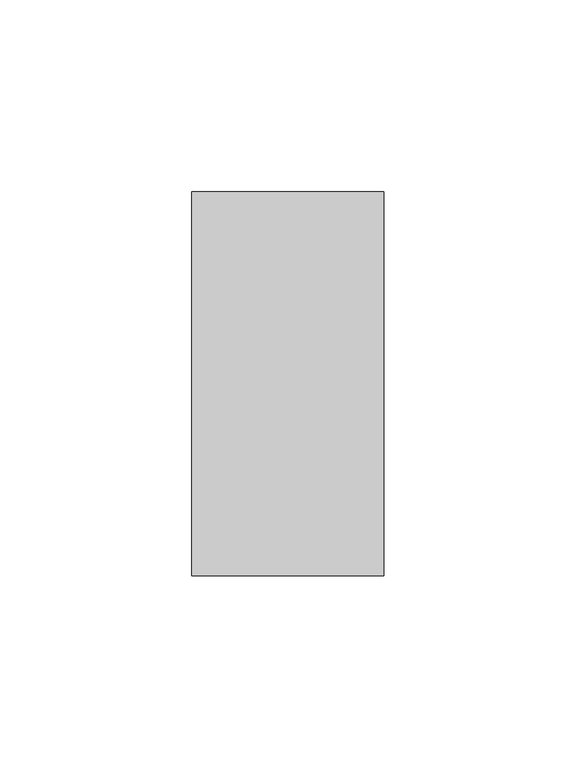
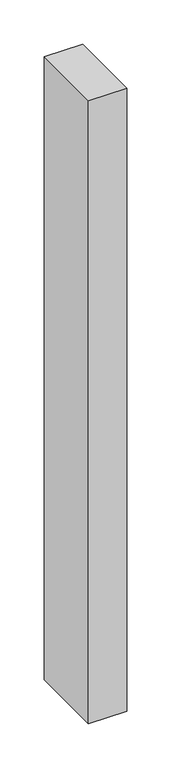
"""IFC4 building model written with IfcOpenShell, lengths in millimetres: member geometry, Прямоугольный импост : 50х100."""

from ifc_helpers import new_model, si_unit, frame, origin, place, context, project, spatial, polyline, outline, extrude, source, transform, mapped, element, save


def member_60ea8178(model_context):
    return source(origin(), model_context, "Body", "SweptSolid", [
        extrude(outline(polyline([(25.0, 50.0), (25.0, -50.0), (-25.0, -50.0), (-25.0, 50.0), (25.0, 50.0)])), frame((0.0, 0.0, -860.0), z_axis=(0.0, 0.0, 1.0), x_axis=(1.0, 0.0, 0.0)), (0.0, 0.0, 1.0), 860.0),
    ])


if __name__ == "__main__":
    model = new_model("IFC4")
    model_context = context("Model", 3, world=origin())
    ifc_project = project(units=[si_unit("LENGTHUNIT", "METRE", prefix="MILLI")], contexts=[model_context])
    site = spatial("IfcSite", under=ifc_project)
    building = spatial("IfcBuilding", under=site)
    placement = place(None, origin())
    member_shape = member_60ea8178(model_context)
    element("IfcMember", 1, ObjectType="Прямоугольный импост : 50х100", at=placement, inside=building, context=model_context, shape_type="MappedRepresentation", body=[
        mapped(member_shape, transform((0.0, 0.0, 0.0), x_axis=(1.0, 0.0, 0.0), y_axis=(0.0, 1.0, 0.0), z_axis=(0.0, 0.0, 1.0))),
    ])
    save(model, "model.ifc")
